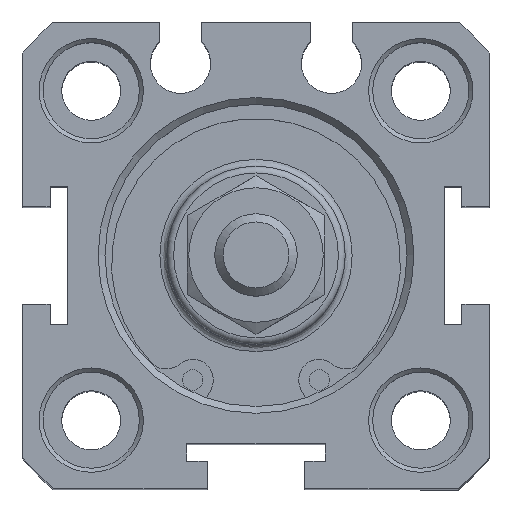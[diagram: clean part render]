
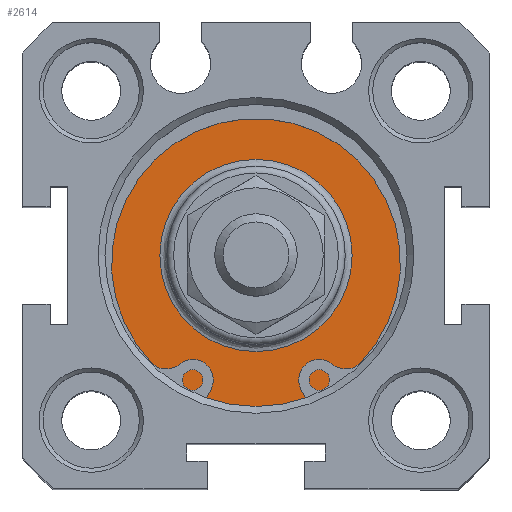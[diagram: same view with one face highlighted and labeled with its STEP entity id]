
A CAD part, top view. The second image highlights one B-rep face of the part: STEP entity #2614.
In plain terms, the highlighted planar face has unit normal (0, 0, 1).
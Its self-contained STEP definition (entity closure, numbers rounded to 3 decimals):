
#2552=CARTESIAN_POINT('',(0.957,6.522,46.8));
#2553=VERTEX_POINT('',#2552);
#2554=CARTESIAN_POINT('',(0.957,-0.478,46.8));
#2555=DIRECTION('',(0.0,0.0,1.0));
#2556=DIRECTION('',(0.0,-1.0,0.0));
#2557=AXIS2_PLACEMENT_3D('',#2554,#2555,#2556);
#2558=CIRCLE('',#2557,7.);
#2559=EDGE_CURVE('',#2553,#2553,#2558,.T.);
#2595=CARTESIAN_POINT('',(0.957,8.272,46.8));
#2596=DIRECTION('',(0.0,0.0,1.0));
#2597=DIRECTION('',(1.0,0.0,0.0));
#2598=AXIS2_PLACEMENT_3D('',#2595,#2596,#2597);
#2599=PLANE('',#2598);
#2600=CARTESIAN_POINT('',(0.957,10.522,46.8));
#2601=VERTEX_POINT('',#2600);
#2602=CARTESIAN_POINT('',(0.957,-0.478,46.8));
#2603=DIRECTION('',(0.0,0.0,1.0));
#2604=DIRECTION('',(0.0,1.0,0.0));
#2605=AXIS2_PLACEMENT_3D('',#2602,#2603,#2604);
#2606=CIRCLE('',#2605,11.);
#2607=EDGE_CURVE('',#2601,#2601,#2606,.T.);
#2608=ORIENTED_EDGE('',*,*,#2607,.T.);
#2609=EDGE_LOOP('',(#2608));
#2610=FACE_OUTER_BOUND('',#2609,.T.);
#2611=ORIENTED_EDGE('',*,*,#2559,.F.);
#2612=EDGE_LOOP('',(#2611));
#2613=FACE_BOUND('',#2612,.T.);
#2614=ADVANCED_FACE('',(#2610,#2613),#2599,.T.);
